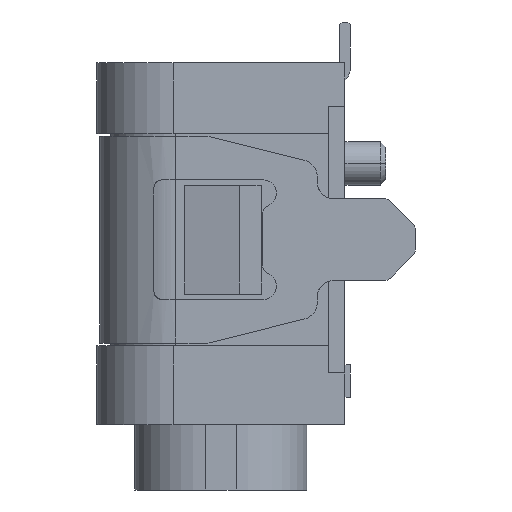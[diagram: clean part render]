
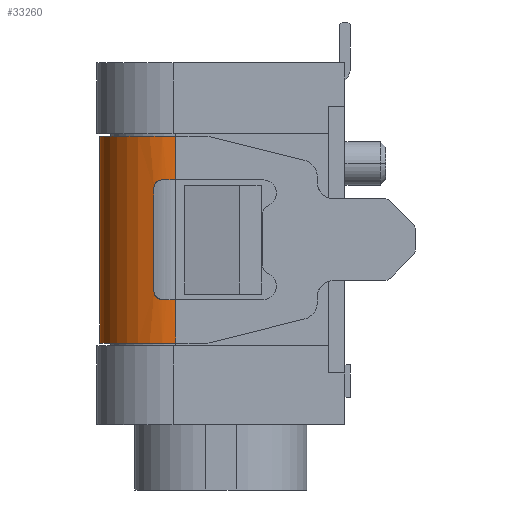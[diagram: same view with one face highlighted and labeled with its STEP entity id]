
A CAD part, left-side view. The second image highlights one B-rep face of the part: STEP entity #33260.
In plain terms, the highlighted cylindrical face has radius 1.4 mm (diameter 2.8 mm), a partial arc.
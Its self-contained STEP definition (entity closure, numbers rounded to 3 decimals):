
#21486=CARTESIAN_POINT('',(1.4,3.86,-5.9));
#21487=DIRECTION('',(0.,0.,1.));
#21488=DIRECTION('',(0.,1.,0.));
#21489=AXIS2_PLACEMENT_3D('',#21486,#21487,#21488);
#21697=DIRECTION('',(0.,0.,-1.));
#21698=VECTOR('',#21697,1.9);
#21699=CARTESIAN_POINT('',(0.058,4.26,-3.05));
#21700=LINE('',#21699,#21698);
#21701=CARTESIAN_POINT('',(0.058,4.26,-4.95));
#21702=CARTESIAN_POINT('',(0.058,4.26,
-4.966));
#21703=CARTESIAN_POINT('',(0.057,4.255,
-4.996));
#21704=CARTESIAN_POINT('',(0.051,4.234,
-5.039));
#21705=CARTESIAN_POINT('',(0.042,4.201,
-5.072));
#21706=CARTESIAN_POINT('',(0.032,4.158,
-5.095));
#21707=CARTESIAN_POINT('',(0.026,4.127,
-5.1));
#21708=CARTESIAN_POINT('',(0.023,4.11,-5.1));
#21710=DIRECTION('',(0.,0.,-1.));
#21711=VECTOR('',#21710,0.8);
#21712=CARTESIAN_POINT('',(0.,3.86,-5.1));
#21713=LINE('',#21712,#21711);
#21714=DIRECTION('',(0.,0.,1.));
#21715=VECTOR('',#21714,3.8);
#21716=CARTESIAN_POINT('',(1.4,5.26,-5.9));
#21717=LINE('',#21716,#21715);
#21718=DIRECTION('',(0.,0.,-1.));
#21719=VECTOR('',#21718,0.8);
#21720=CARTESIAN_POINT('',(0.,3.86,-2.1));
#21721=LINE('',#21720,#21719);
#21722=CARTESIAN_POINT('',(0.023,4.11,-2.9));
#21723=CARTESIAN_POINT('',(0.025,4.126,
-2.9));
#21724=CARTESIAN_POINT('',(0.032,4.157,
-2.905));
#21725=CARTESIAN_POINT('',(0.042,4.2,
-2.927));
#21726=CARTESIAN_POINT('',(0.051,4.234,
-2.961));
#21727=CARTESIAN_POINT('',(0.057,4.255,
-3.004));
#21728=CARTESIAN_POINT('',(0.058,4.26,
-3.034));
#21729=CARTESIAN_POINT('',(0.058,4.26,-3.05));
#21766=CARTESIAN_POINT('',(1.4,3.86,-2.9));
#21767=DIRECTION('',(0.,0.,1.));
#21768=DIRECTION('',(-0.984,0.179,0.));
#21769=AXIS2_PLACEMENT_3D('',#21766,#21767,#21768);
#21848=CARTESIAN_POINT('',(1.4,3.86,-5.1));
#21849=DIRECTION('',(0.,0.,-1.));
#21850=DIRECTION('',(-1.,0.,0.));
#21851=AXIS2_PLACEMENT_3D('',#21848,#21849,#21850);
#22594=CARTESIAN_POINT('',(1.4,3.86,-2.1));
#22595=DIRECTION('',(0.,0.,-1.));
#22596=DIRECTION('',(-1.,0.,0.));
#22597=AXIS2_PLACEMENT_3D('',#22594,#22595,#22596);
#30271=CARTESIAN_POINT('',(1.4,5.26,-5.9));
#30272=VERTEX_POINT('',#30271);
#30273=CARTESIAN_POINT('',(0.,3.86,-5.9));
#30274=VERTEX_POINT('',#30273);
#30441=CARTESIAN_POINT('',(0.,3.86,-5.1));
#30442=VERTEX_POINT('',#30441);
#30455=CARTESIAN_POINT('',(0.,3.86,-2.9));
#30456=VERTEX_POINT('',#30455);
#30457=CARTESIAN_POINT('',(0.,3.86,-2.1));
#30458=VERTEX_POINT('',#30457);
#30495=CARTESIAN_POINT('',(0.058,4.26,-3.05));
#30496=CARTESIAN_POINT('',(0.058,4.26,-4.95));
#30497=VERTEX_POINT('',#30495);
#30498=VERTEX_POINT('',#30496);
#30499=VERTEX_POINT('',#21708);
#30500=CARTESIAN_POINT('',(1.4,5.26,-2.1));
#30501=VERTEX_POINT('',#30500);
#30502=CARTESIAN_POINT('',(0.023,4.11,-2.9));
#30503=VERTEX_POINT('',#30502);
#33236=CARTESIAN_POINT('',(1.4,3.86,2.854));
#33237=DIRECTION('',(0.,0.,-1.));
#33238=DIRECTION('',(-1.,0.,0.));
#33239=AXIS2_PLACEMENT_3D('',#33236,#33237,#33238);
#33240=CYLINDRICAL_SURFACE('',#33239,1.4);
#33242=ORIENTED_EDGE('',*,*,#33241,.T.);
#33244=ORIENTED_EDGE('',*,*,#33243,.T.);
#33246=ORIENTED_EDGE('',*,*,#33245,.F.);
#33247=ORIENTED_EDGE('',*,*,#33175,.T.);
#33248=ORIENTED_EDGE('',*,*,#33048,.F.);
#33250=ORIENTED_EDGE('',*,*,#33249,.T.);
#33252=ORIENTED_EDGE('',*,*,#33251,.F.);
#33253=ORIENTED_EDGE('',*,*,#33191,.T.);
#33255=ORIENTED_EDGE('',*,*,#33254,.F.);
#33257=ORIENTED_EDGE('',*,*,#33256,.T.);
#33258=EDGE_LOOP('',(#33242,#33244,#33246,#33247,#33248,#33250,#33252,#33253,
#33255,#33257));
#33259=FACE_OUTER_BOUND('',#33258,.F.);
#33260=ADVANCED_FACE('',(#33259),#33240,.T.);
#21490=CIRCLE('',#21489,1.4);
#21709=B_SPLINE_CURVE_WITH_KNOTS('',3,(#21701,#21702,#21703,#21704,#21705,
#21706,#21707,#21708),.UNSPECIFIED.,.F.,.F.,(4,1,1,1,1,4),(0.,0.2,0.4,
0.6,0.8,1.),.UNSPECIFIED.);
#21730=B_SPLINE_CURVE_WITH_KNOTS('',3,(#21722,#21723,#21724,#21725,#21726,
#21727,#21728,#21729),.UNSPECIFIED.,.F.,.F.,(4,1,1,1,1,4),(0.,0.2,0.4,
0.6,0.8,1.),.UNSPECIFIED.);
#21770=CIRCLE('',#21769,1.4);
#21852=CIRCLE('',#21851,1.4);
#22598=CIRCLE('',#22597,1.4);
#33048=EDGE_CURVE('',#30272,#30274,#21490,.T.);
#33175=EDGE_CURVE('',#30442,#30274,#21713,.T.);
#33191=EDGE_CURVE('',#30458,#30456,#21721,.T.);
#33241=EDGE_CURVE('',#30497,#30498,#21700,.T.);
#33243=EDGE_CURVE('',#30498,#30499,#21709,.T.);
#33245=EDGE_CURVE('',#30442,#30499,#21852,.T.);
#33249=EDGE_CURVE('',#30272,#30501,#21717,.T.);
#33251=EDGE_CURVE('',#30458,#30501,#22598,.T.);
#33254=EDGE_CURVE('',#30503,#30456,#21770,.T.);
#33256=EDGE_CURVE('',#30503,#30497,#21730,.T.);
